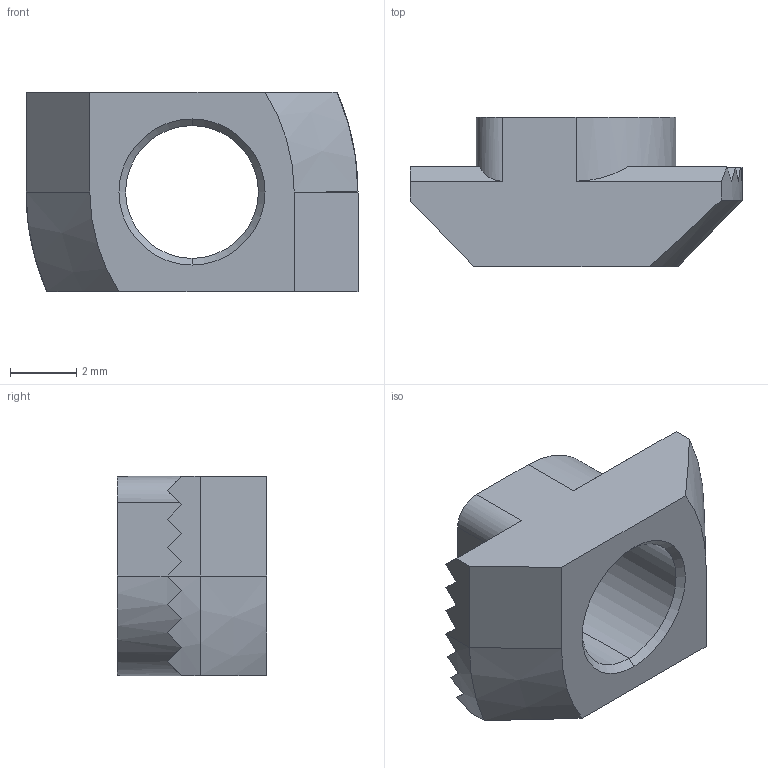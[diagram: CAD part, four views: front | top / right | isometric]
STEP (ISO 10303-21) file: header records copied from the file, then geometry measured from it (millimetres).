
FILE_DESCRIPTION (( 'STEP AP214' ), '1' );
FILE_NAME ('Drop In Nut - T-V-Slot - 20 Series - M4.STEP', '2024-09-29T22:10:08', ( '' ), ( '' ), 'SwSTEP 2.0', 'SolidWorks 2024', '' );
FILE_SCHEMA (( 'AUTOMOTIVE_DESIGN' ));
Length unit declared in the file: millimetre
Products named in the file (1): Drop In Nut - T-V-Slot - 20 Series - M4
Bounding box: 10 x 4.5 x 6 mm (x, y, z)
Volume: 137.7 mm3; surface area: 254.2 mm2
Topology: 1 solids, 1 shells, 54 faces, 144 edges, 92 vertices
Faces by surface type: plane 40, cylinder 8, cone 6
Entity records: 1678 total; most frequent: CARTESIAN_POINT 393, ORIENTED_EDGE 288, DIRECTION 237, EDGE_CURVE 144, VECTOR 93, LINE 93, VERTEX_POINT 92, AXIS2_PLACEMENT_3D 72
